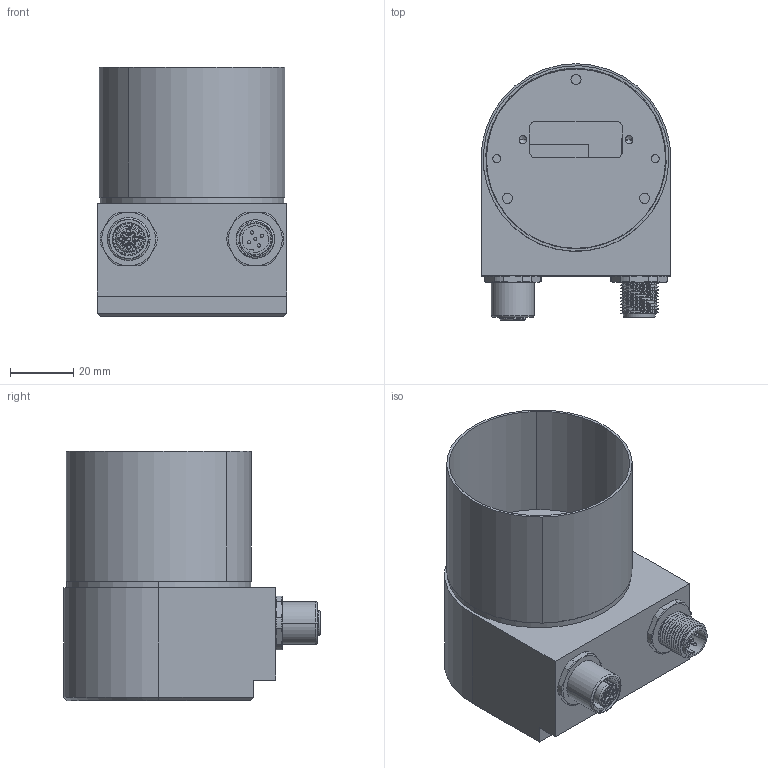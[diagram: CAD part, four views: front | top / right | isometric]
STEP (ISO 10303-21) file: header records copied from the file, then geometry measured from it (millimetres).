
FILE_DESCRIPTION (( 'STEP AP203' ), '1' );
FILE_NAME ('Drawing-OC-5-EM-787-SZM-EMREMR-Y-PRM-N.STEP', '2014-06-18T12:06:53', ( '' ), ( '' ), 'SwSTEP 2.0', 'SolidWorks 2014', '' );
FILE_SCHEMA (( 'CONFIG_CONTROL_DESIGN' ));
Length unit declared in the file: millimetre
Products named in the file (1): Drawing-OC-5-EM-787-SZM-EMREMR-Y-PRM-N
Bounding box: 60 x 81 x 78.7 mm (x, y, z)
Volume: 71776.8 mm3; surface area: 56430.5 mm2
Topology: 12 solids, 12 shells, 741 faces, 1941 edges, 1245 vertices
Faces by surface type: cylinder 399, plane 175, cone 106, bspline 32, torus 24, sphere 5
Entity records: 27244 total; most frequent: CARTESIAN_POINT 9370, ORIENTED_EDGE 3814, DIRECTION 3683, EDGE_CURVE 1907, AXIS2_PLACEMENT_3D 1493, VERTEX_POINT 1235, EDGE_LOOP 830, CIRCLE 783
